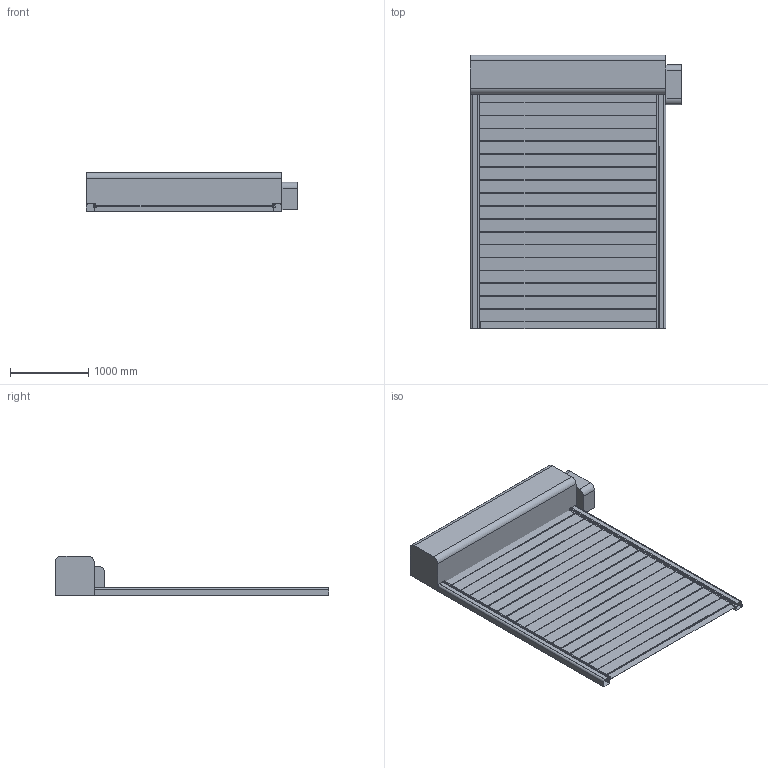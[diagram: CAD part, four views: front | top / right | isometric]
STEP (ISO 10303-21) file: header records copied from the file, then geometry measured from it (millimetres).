
FILE_DESCRIPTION (( 'STEP AP203' ), '1' );
FILE_NAME ('Dyn_Frigo 1.STEP', '2018-07-18T09:00:06', ( '' ), ( '' ), 'SwSTEP 2.0', 'SolidWorks 2018', '' );
FILE_SCHEMA (( 'CONFIG_CONTROL_DESIGN' ));
Length unit declared in the file: millimetre
Products named in the file (1): Dyn_Frigo 1
Bounding box: 2700 x 3500 x 500 mm (x, y, z)
Volume: 676062189 mm3; surface area: 43815836.8 mm2
Topology: 24 solids, 24 shells, 459 faces, 1233 edges, 822 vertices
Faces by surface type: plane 348, cylinder 111
Entity records: 14308 total; most frequent: CARTESIAN_POINT 2515, ORIENTED_EDGE 2466, DIRECTION 2375, EDGE_CURVE 1233, LINE 1011, VECTOR 1011, VERTEX_POINT 822, AXIS2_PLACEMENT_3D 682
